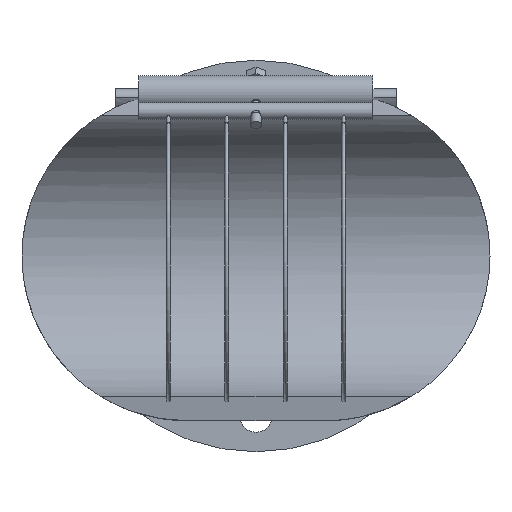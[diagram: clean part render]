
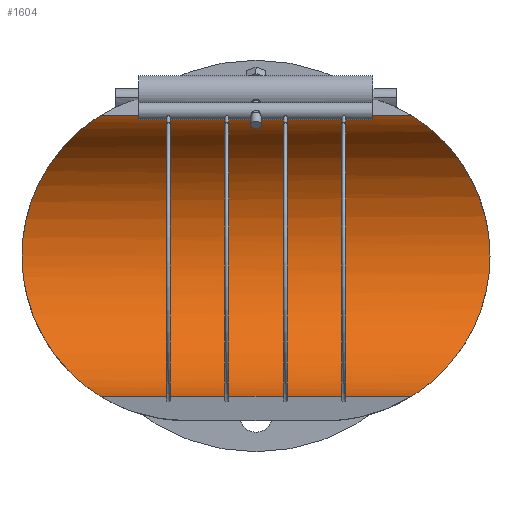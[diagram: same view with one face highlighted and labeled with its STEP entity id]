
A CAD part, front view. The second image highlights one B-rep face of the part: STEP entity #1604.
In plain terms, the highlighted cylindrical face has radius 80 mm (diameter 160 mm), a partial arc.
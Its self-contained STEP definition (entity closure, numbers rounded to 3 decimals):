
#151=FACE_OUTER_BOUND('',#245,.T.);
#245=EDGE_LOOP('',(#1347,#1348,#1349,#1350,#1351,#1352,#1353,#1354,#1355,
#1356));
#332=B_SPLINE_CURVE_WITH_KNOTS('',3,(#3339,#3340,#3341,#3342,#3343,#3344,
#3345,#3346,#3347,#3348,#3349,#3350,#3351,#3352,#3353,#3354,#3355,#3356),
 .UNSPECIFIED.,.F.,.F.,(4,2,2,2,2,2,2,2,4),(27.86,28.123,
29.819,31.515,33.211,34.818,36.425,
38.032,39.64),.UNSPECIFIED.);
#333=B_SPLINE_CURVE_WITH_KNOTS('',3,(#3357,#3358,#3359,#3360,#3361,#3362,
#3363,#3364,#3365,#3366,#3367,#3368,#3369,#3370,#3371,#3372,#3373,#3374),
 .UNSPECIFIED.,.F.,.F.,(4,2,2,2,2,2,2,2,4),(39.64,41.247,
42.854,44.461,46.068,47.764,49.46,
51.157,51.419),.UNSPECIFIED.);
#338=B_SPLINE_CURVE_WITH_KNOTS('',3,(#3486,#3487,#3488,#3489,#3490,#3491,
#3492,#3493,#3494,#3495,#3496,#3497,#3498,#3499,#3500,#3501,#3502,#3503),
 .UNSPECIFIED.,.F.,.F.,(4,2,2,2,2,2,2,2,4),(1.434,1.696,
3.392,5.089,6.785,8.392,9.999,
11.606,13.213),.UNSPECIFIED.);
#339=B_SPLINE_CURVE_WITH_KNOTS('',3,(#3505,#3506,#3507,#3508,#3509,#3510,
#3511,#3512,#3513,#3514,#3515,#3516,#3517,#3518,#3519,#3520,#3521,#3522),
 .UNSPECIFIED.,.F.,.F.,(4,2,2,2,2,2,2,2,4),(13.213,14.82,
16.427,18.034,19.642,21.338,23.034,
24.73,24.992),.UNSPECIFIED.);
#469=LINE('',#2636,#542);
#470=LINE('',#2639,#543);
#471=LINE('',#2642,#544);
#472=LINE('',#2644,#545);
#473=LINE('',#2645,#546);
#517=LINE('',#3564,#590);
#542=VECTOR('',#1901,10.);
#543=VECTOR('',#1904,10.);
#544=VECTOR('',#1907,10.);
#545=VECTOR('',#1910,10.);
#546=VECTOR('',#1911,10.);
#590=VECTOR('',#2163,10.);
#631=VERTEX_POINT('',#2624);
#633=VERTEX_POINT('',#2629);
#635=VERTEX_POINT('',#2633);
#636=VERTEX_POINT('',#2635);
#637=VERTEX_POINT('',#2638);
#638=VERTEX_POINT('',#2641);
#714=VERTEX_POINT('',#3336);
#715=VERTEX_POINT('',#3338);
#720=VERTEX_POINT('',#3485);
#721=VERTEX_POINT('',#3504);
#809=EDGE_CURVE('',#636,#635,#469,.T.);
#811=EDGE_CURVE('',#637,#636,#470,.T.);
#813=EDGE_CURVE('',#638,#637,#471,.T.);
#815=EDGE_CURVE('',#631,#638,#472,.T.);
#816=EDGE_CURVE('',#633,#631,#473,.T.);
#940=EDGE_CURVE('',#714,#715,#332,.T.);
#941=EDGE_CURVE('',#715,#635,#333,.T.);
#946=EDGE_CURVE('',#633,#720,#338,.T.);
#947=EDGE_CURVE('',#720,#721,#339,.T.);
#951=EDGE_CURVE('',#714,#721,#517,.T.);
#1347=ORIENTED_EDGE('',*,*,#946,.F.);
#1348=ORIENTED_EDGE('',*,*,#816,.T.);
#1349=ORIENTED_EDGE('',*,*,#815,.T.);
#1350=ORIENTED_EDGE('',*,*,#813,.T.);
#1351=ORIENTED_EDGE('',*,*,#811,.T.);
#1352=ORIENTED_EDGE('',*,*,#809,.T.);
#1353=ORIENTED_EDGE('',*,*,#941,.F.);
#1354=ORIENTED_EDGE('',*,*,#940,.F.);
#1355=ORIENTED_EDGE('',*,*,#951,.T.);
#1356=ORIENTED_EDGE('',*,*,#947,.F.);
#1533=CYLINDRICAL_SURFACE('',#1776,80.);
#1604=ADVANCED_FACE('',(#151),#1533,.F.);
#1776=AXIS2_PLACEMENT_3D('',#3563,#2161,#2162);
#1901=DIRECTION('',(1.,0.,0.));
#1904=DIRECTION('',(1.,0.,0.));
#1907=DIRECTION('',(1.,0.,0.));
#1910=DIRECTION('',(1.,0.,0.));
#1911=DIRECTION('',(1.,0.,0.));
#2161=DIRECTION('center_axis',(1.,0.,0.));
#2162=DIRECTION('ref_axis',(0.,1.,0.));
#2163=DIRECTION('',(-1.,0.,0.));
#2624=CARTESIAN_POINT('',(-49.313,13.892,-78.785));
#2629=CARTESIAN_POINT('',(-87.534,13.892,-78.785));
#2633=CARTESIAN_POINT('',(87.534,13.892,-78.785));
#2635=CARTESIAN_POINT('',(49.313,13.892,-78.785));
#2636=CARTESIAN_POINT('',(0.,13.892,-78.785));
#2638=CARTESIAN_POINT('',(16.438,13.892,-78.785));
#2639=CARTESIAN_POINT('',(0.,13.892,-78.785));
#2641=CARTESIAN_POINT('',(-16.438,13.892,-78.785));
#2642=CARTESIAN_POINT('',(0.,13.892,-78.785));
#2644=CARTESIAN_POINT('',(0.,13.892,-78.785));
#2645=CARTESIAN_POINT('',(0.,13.892,-78.785));
#3336=CARTESIAN_POINT('',(87.534,13.892,78.785));
#3338=CARTESIAN_POINT('',(131.5,80.,0.));
#3339=CARTESIAN_POINT('Ctrl Pts',(87.534,13.892,78.785));
#3340=CARTESIAN_POINT('Ctrl Pts',(87.768,14.711,78.64));
#3341=CARTESIAN_POINT('Ctrl Pts',(88.02,15.525,78.483));
#3342=CARTESIAN_POINT('Ctrl Pts',(90.018,21.564,77.224));
#3343=CARTESIAN_POINT('Ctrl Pts',(92.41,26.579,75.634));
#3344=CARTESIAN_POINT('Ctrl Pts',(97.75,36.141,71.56));
#3345=CARTESIAN_POINT('Ctrl Pts',(100.698,40.684,69.072));
#3346=CARTESIAN_POINT('Ctrl Pts',(106.57,49.144,63.332));
#3347=CARTESIAN_POINT('Ctrl Pts',(109.496,53.059,60.078));
#3348=CARTESIAN_POINT('Ctrl Pts',(114.772,59.893,53.244));
#3349=CARTESIAN_POINT('Ctrl Pts',(117.335,63.094,49.448));
#3350=CARTESIAN_POINT('Ctrl Pts',(122.044,68.858,41.043));
#3351=CARTESIAN_POINT('Ctrl Pts',(124.189,71.422,36.432));
#3352=CARTESIAN_POINT('Ctrl Pts',(127.738,75.623,26.636));
#3353=CARTESIAN_POINT('Ctrl Pts',(129.145,77.265,21.44));
#3354=CARTESIAN_POINT('Ctrl Pts',(131.026,79.453,10.8));
#3355=CARTESIAN_POINT('Ctrl Pts',(131.5,80.,5.357));
#3356=CARTESIAN_POINT('Ctrl Pts',(131.5,80.,0.));
#3357=CARTESIAN_POINT('Ctrl Pts',(131.5,80.,0.));
#3358=CARTESIAN_POINT('Ctrl Pts',(131.5,80.,-5.357));
#3359=CARTESIAN_POINT('Ctrl Pts',(131.026,79.453,-10.8));
#3360=CARTESIAN_POINT('Ctrl Pts',(129.145,77.265,-21.44));
#3361=CARTESIAN_POINT('Ctrl Pts',(127.738,75.623,-26.636));
#3362=CARTESIAN_POINT('Ctrl Pts',(124.189,71.422,-36.432));
#3363=CARTESIAN_POINT('Ctrl Pts',(122.044,68.858,-41.043));
#3364=CARTESIAN_POINT('Ctrl Pts',(117.335,63.094,-49.448));
#3365=CARTESIAN_POINT('Ctrl Pts',(114.772,59.893,-53.244));
#3366=CARTESIAN_POINT('Ctrl Pts',(109.496,53.059,-60.078));
#3367=CARTESIAN_POINT('Ctrl Pts',(106.57,49.144,-63.332));
#3368=CARTESIAN_POINT('Ctrl Pts',(100.698,40.684,-69.072));
#3369=CARTESIAN_POINT('Ctrl Pts',(97.75,36.141,-71.56));
#3370=CARTESIAN_POINT('Ctrl Pts',(92.41,26.579,-75.634));
#3371=CARTESIAN_POINT('Ctrl Pts',(90.018,21.564,-77.224));
#3372=CARTESIAN_POINT('Ctrl Pts',(88.02,15.525,-78.483));
#3373=CARTESIAN_POINT('Ctrl Pts',(87.768,14.711,-78.64));
#3374=CARTESIAN_POINT('Ctrl Pts',(87.534,13.892,-78.785));
#3485=CARTESIAN_POINT('',(-131.5,80.,0.));
#3486=CARTESIAN_POINT('Ctrl Pts',(-87.534,13.892,-78.785));
#3487=CARTESIAN_POINT('Ctrl Pts',(-87.768,14.711,-78.64));
#3488=CARTESIAN_POINT('Ctrl Pts',(-88.02,15.525,-78.483));
#3489=CARTESIAN_POINT('Ctrl Pts',(-90.018,21.564,-77.224));
#3490=CARTESIAN_POINT('Ctrl Pts',(-92.41,26.579,-75.634));
#3491=CARTESIAN_POINT('Ctrl Pts',(-97.75,36.141,-71.56));
#3492=CARTESIAN_POINT('Ctrl Pts',(-100.698,40.684,-69.072));
#3493=CARTESIAN_POINT('Ctrl Pts',(-106.57,49.144,-63.332));
#3494=CARTESIAN_POINT('Ctrl Pts',(-109.496,53.059,-60.078));
#3495=CARTESIAN_POINT('Ctrl Pts',(-114.772,59.893,-53.244));
#3496=CARTESIAN_POINT('Ctrl Pts',(-117.335,63.094,-49.448));
#3497=CARTESIAN_POINT('Ctrl Pts',(-122.044,68.858,-41.043));
#3498=CARTESIAN_POINT('Ctrl Pts',(-124.189,71.422,-36.432));
#3499=CARTESIAN_POINT('Ctrl Pts',(-127.738,75.623,-26.636));
#3500=CARTESIAN_POINT('Ctrl Pts',(-129.145,77.265,-21.44));
#3501=CARTESIAN_POINT('Ctrl Pts',(-131.026,79.453,-10.8));
#3502=CARTESIAN_POINT('Ctrl Pts',(-131.5,80.,-5.357));
#3503=CARTESIAN_POINT('Ctrl Pts',(-131.5,80.,0.));
#3504=CARTESIAN_POINT('',(-87.534,13.892,78.785));
#3505=CARTESIAN_POINT('Ctrl Pts',(-131.5,80.,0.));
#3506=CARTESIAN_POINT('Ctrl Pts',(-131.5,80.,5.357));
#3507=CARTESIAN_POINT('Ctrl Pts',(-131.026,79.453,10.8));
#3508=CARTESIAN_POINT('Ctrl Pts',(-129.145,77.265,21.44));
#3509=CARTESIAN_POINT('Ctrl Pts',(-127.738,75.623,26.636));
#3510=CARTESIAN_POINT('Ctrl Pts',(-124.189,71.422,36.432));
#3511=CARTESIAN_POINT('Ctrl Pts',(-122.044,68.858,41.043));
#3512=CARTESIAN_POINT('Ctrl Pts',(-117.335,63.094,49.448));
#3513=CARTESIAN_POINT('Ctrl Pts',(-114.772,59.893,53.244));
#3514=CARTESIAN_POINT('Ctrl Pts',(-109.496,53.059,60.078));
#3515=CARTESIAN_POINT('Ctrl Pts',(-106.57,49.144,63.332));
#3516=CARTESIAN_POINT('Ctrl Pts',(-100.698,40.684,69.072));
#3517=CARTESIAN_POINT('Ctrl Pts',(-97.75,36.141,71.56));
#3518=CARTESIAN_POINT('Ctrl Pts',(-92.41,26.579,75.634));
#3519=CARTESIAN_POINT('Ctrl Pts',(-90.018,21.564,77.224));
#3520=CARTESIAN_POINT('Ctrl Pts',(-88.02,15.525,78.483));
#3521=CARTESIAN_POINT('Ctrl Pts',(-87.768,14.711,78.64));
#3522=CARTESIAN_POINT('Ctrl Pts',(-87.534,13.892,78.785));
#3563=CARTESIAN_POINT('Origin',(0.,0.,0.));
#3564=CARTESIAN_POINT('',(0.,13.892,78.785));
